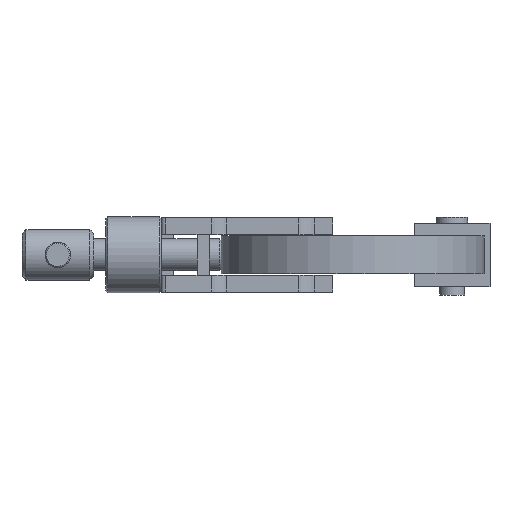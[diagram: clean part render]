
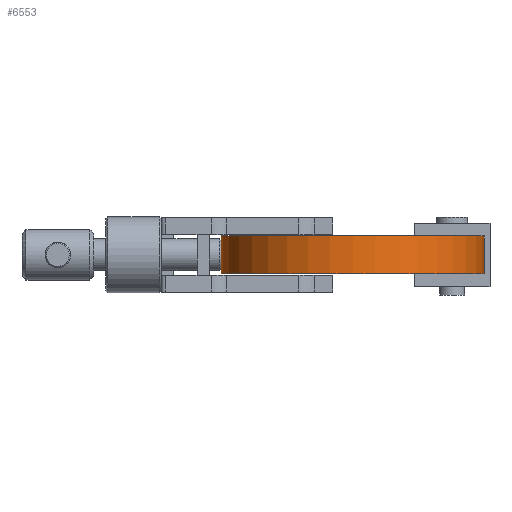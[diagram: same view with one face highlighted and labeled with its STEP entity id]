
A CAD part, left-side view. The second image highlights one B-rep face of the part: STEP entity #6553.
In plain terms, the highlighted cylindrical face has radius 33 mm (diameter 66 mm), a partial arc.
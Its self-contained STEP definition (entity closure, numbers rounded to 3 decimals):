
#951 = ORIENTED_EDGE ( 'NONE', *, *, #1469, .F. ) ;
#961 = ORIENTED_EDGE ( 'NONE', *, *, #1398, .F. ) ;
#969 = ORIENTED_EDGE ( 'NONE', *, *, #1493, .T. ) ;
#990 = ORIENTED_EDGE ( 'NONE', *, *, #1400, .T. ) ;
#1398 = EDGE_CURVE ( 'NONE', #4229, #4318, #2833, .T. ) ;
#1400 = EDGE_CURVE ( 'NONE', #4339, #4477, #2837, .T. ) ;
#1469 = EDGE_CURVE ( 'NONE', #4318, #4477, #2957, .T. ) ;
#1493 = EDGE_CURVE ( 'NONE', #4229, #4339, #2985, .T. ) ;
#1616 = AXIS2_PLACEMENT_3D ( 'NONE', #3932, #3930, #3928 ) ;
#1621 = AXIS2_PLACEMENT_3D ( 'NONE', #1783, #1784, #1785 ) ;
#1783 = CARTESIAN_POINT ( 'NONE',  ( 0., 0., -9.525 ) ) ;
#1784 = DIRECTION ( 'NONE',  ( 0., 0., 1. ) ) ;
#1785 = DIRECTION ( 'NONE',  ( 1., 0., 0. ) ) ;
#2326 = DIRECTION ( 'NONE',  ( 1., 0., 0. ) ) ;
#2331 = DIRECTION ( 'NONE',  ( 0., 0., 1. ) ) ;
#2333 = CARTESIAN_POINT ( 'NONE',  ( 0., 0., -9.525 ) ) ;
#2753 = DIRECTION ( 'NONE',  ( 0., 0., 1. ) ) ;
#2755 = CARTESIAN_POINT ( 'NONE',  ( 0., -33., -9.525 ) ) ;
#2758 = DIRECTION ( 'NONE',  ( 0., 0., 1. ) ) ;
#2759 = CARTESIAN_POINT ( 'NONE',  ( 0., 33., -9.525 ) ) ;
#2833 = LINE ( 'NONE', #2759, #2836 ) ;
#2836 = VECTOR ( 'NONE', #2758, 1000. ) ;
#2837 = LINE ( 'NONE', #2755, #2840 ) ;
#2840 = VECTOR ( 'NONE', #2753, 1000. ) ;
#2957 = CIRCLE ( 'NONE', #1616, 33. ) ;
#2985 = CIRCLE ( 'NONE', #1621, 33. ) ;
#3486 = FACE_OUTER_BOUND ( 'NONE', #4546, .T. ) ;
#3490 = CYLINDRICAL_SURFACE ( 'NONE', #6912, 33. ) ;
#3928 = DIRECTION ( 'NONE',  ( 1., 0., 0. ) ) ;
#3930 = DIRECTION ( 'NONE',  ( 0., 0., 1. ) ) ;
#3932 = CARTESIAN_POINT ( 'NONE',  ( 0., 0., 0. ) ) ;
#4229 = VERTEX_POINT ( 'NONE', #5955 ) ;
#4318 = VERTEX_POINT ( 'NONE', #6044 ) ;
#4339 = VERTEX_POINT ( 'NONE', #6065 ) ;
#4477 = VERTEX_POINT ( 'NONE', #6203 ) ;
#4546 = EDGE_LOOP ( 'NONE', ( #951, #961, #969, #990 ) ) ;
#5955 = CARTESIAN_POINT ( 'NONE',  ( 0., 33., -9.525 ) ) ;
#6044 = CARTESIAN_POINT ( 'NONE',  ( 0., 33., 0. ) ) ;
#6065 = CARTESIAN_POINT ( 'NONE',  ( 0., -33., -9.525 ) ) ;
#6203 = CARTESIAN_POINT ( 'NONE',  ( 0., -33., 0. ) ) ;
#6553 = ADVANCED_FACE ( 'NONE', ( #3486 ), #3490, .T. ) ;
#6912 = AXIS2_PLACEMENT_3D ( 'NONE', #2333, #2331, #2326 ) ;
